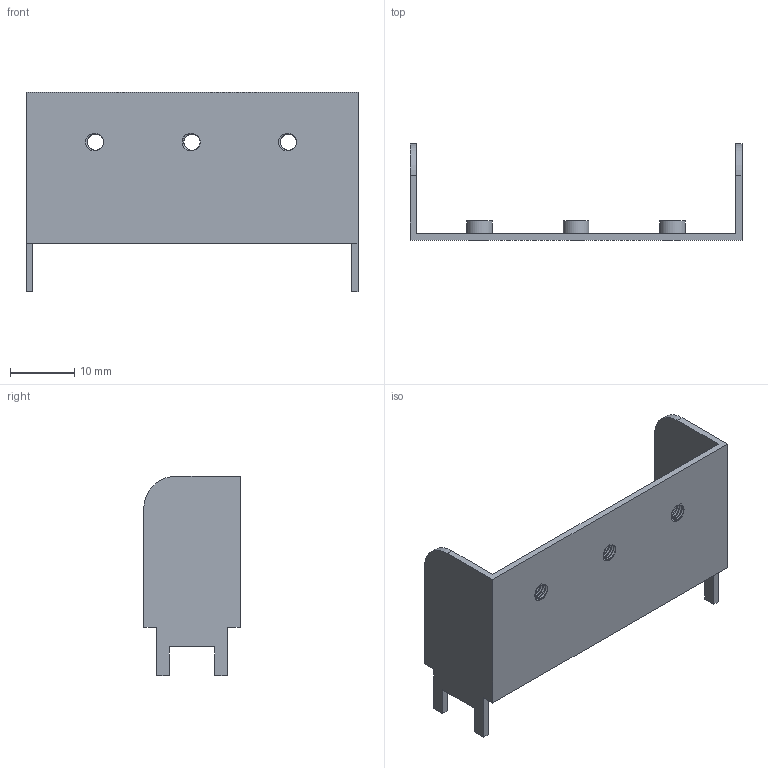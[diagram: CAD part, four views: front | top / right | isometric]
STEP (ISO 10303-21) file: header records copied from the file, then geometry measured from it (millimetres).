
FILE_DESCRIPTION(/* description */ ('','CAx-IF Rec.Pracs.---Representation and Presentation of Product Manufacturing Information (PMI)---4.0---2014-10-13'),/* implementation_level */ '2;1');
FILE_NAME(/* name */ 'TypeC-1-1.0.step',/* time_stamp */ '2025-01-27T02:28:38+09:00',/* author */ (''),/* organization */ (''),/* preprocessor_version */ 'ST-DEVELOPER v20',/* originating_system */ 'Autodesk Translation Framework v13.20.0.188',/* authorisation */ '');
FILE_SCHEMA (('AP242_MANAGED_MODEL_BASED_3D_ENGINEERING_MIM_LF { 1 0 10303 442 1 1 4 }'));
Length unit declared in the file: millimetre
Products named in the file (1): (未保存)
Bounding box: 51.6 x 15 x 31 mm (x, y, z)
Volume: 1983.4 mm3; surface area: 4342.2 mm2
Topology: 1 solids, 1 shells, 88 faces, 249 edges, 166 vertices
Faces by surface type: cylinder 47, plane 29, bspline 12
Full cylindrical faces by diameter (mm): 2.529 x9, 3.086 x6, 4 x3
Entity records: 6376 total; most frequent: CARTESIAN_POINT 4284, ORIENTED_EDGE 498, DIRECTION 311, EDGE_CURVE 249, VERTEX_POINT 166, B_SPLINE_CURVE_WITH_KNOTS 114, LINE 113, VECTOR 113
